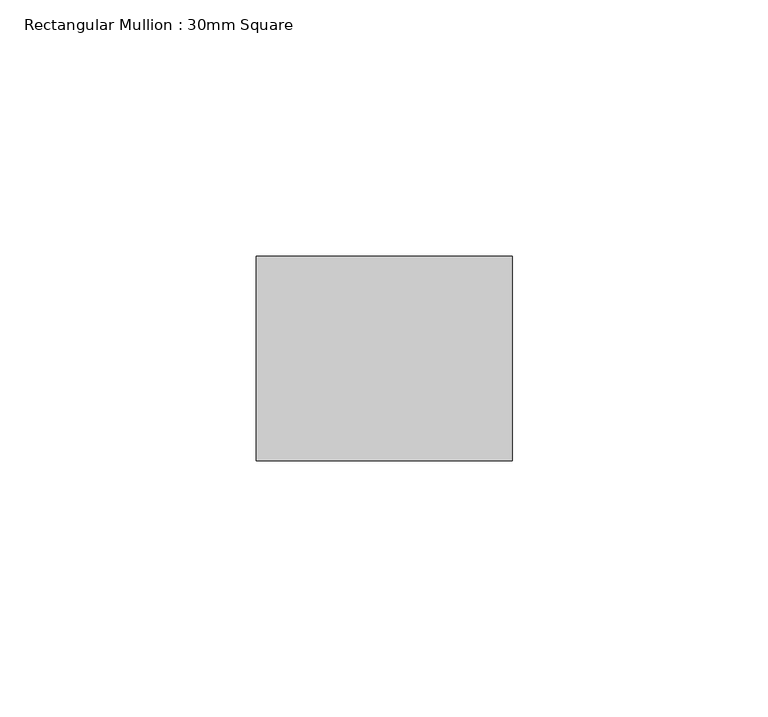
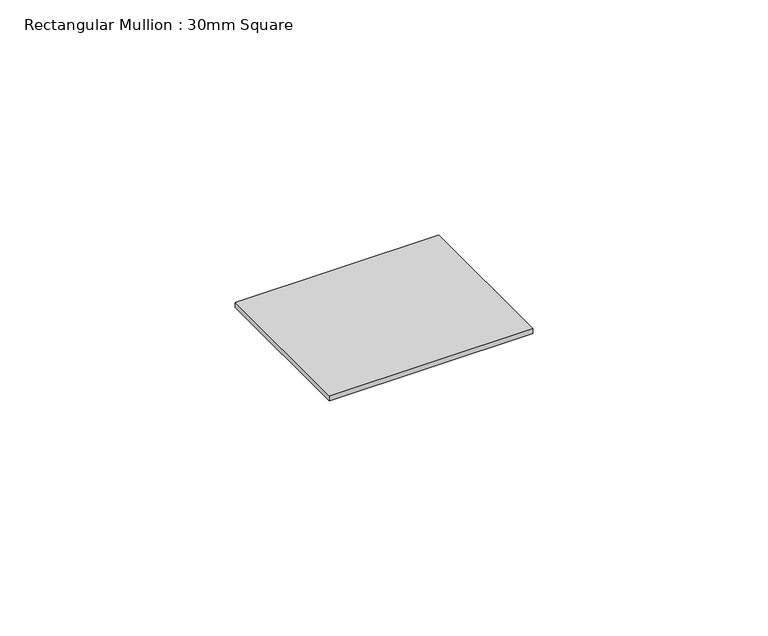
"""IFC4 building model written with IfcOpenShell, lengths in millimetres: member geometry, Rectangular Mullion : 30mm Square."""

from ifc_helpers import new_model, si_unit, frame, origin, place, context, project, spatial, polyline, outline, extrude, source, transform, mapped, element, save


def rectangular_mullion_30mm_square_b8f5c0d0(model_context):
    return source(origin(), model_context, "Body", "SweptSolid", [
        extrude(outline(polyline([(25.0, 20.0), (25.0, -20.0), (-25.0, -20.0), (-25.0, 20.0), (25.0, 20.0)])), frame((0.0, 0.0, -1.3162338), z_axis=(0.0, 0.0, 1.0), x_axis=(1.0, 0.0, 0.0)), (0.0, 0.0, 1.0), 1.3162338),
    ])


if __name__ == "__main__":
    model = new_model("IFC4")
    model_context = context("Model", 3, world=origin())
    ifc_project = project(units=[si_unit("LENGTHUNIT", "METRE", prefix="MILLI")], contexts=[model_context])
    site = spatial("IfcSite", under=ifc_project)
    building = spatial("IfcBuilding", under=site)
    placement = place(None, origin())
    rectangular_mullion_30mm_square_shape = rectangular_mullion_30mm_square_b8f5c0d0(model_context)
    element("IfcMember", 1, ObjectType="Rectangular Mullion : 30mm Square", at=placement, inside=building, context=model_context, shape_type="MappedRepresentation", body=[
        mapped(rectangular_mullion_30mm_square_shape, transform((0.0, 0.0, 0.0), x_axis=(1.0, 0.0, 0.0), y_axis=(0.0, 1.0, 0.0), z_axis=(0.0, 0.0, 1.0))),
    ])
    save(model, "model.ifc")
